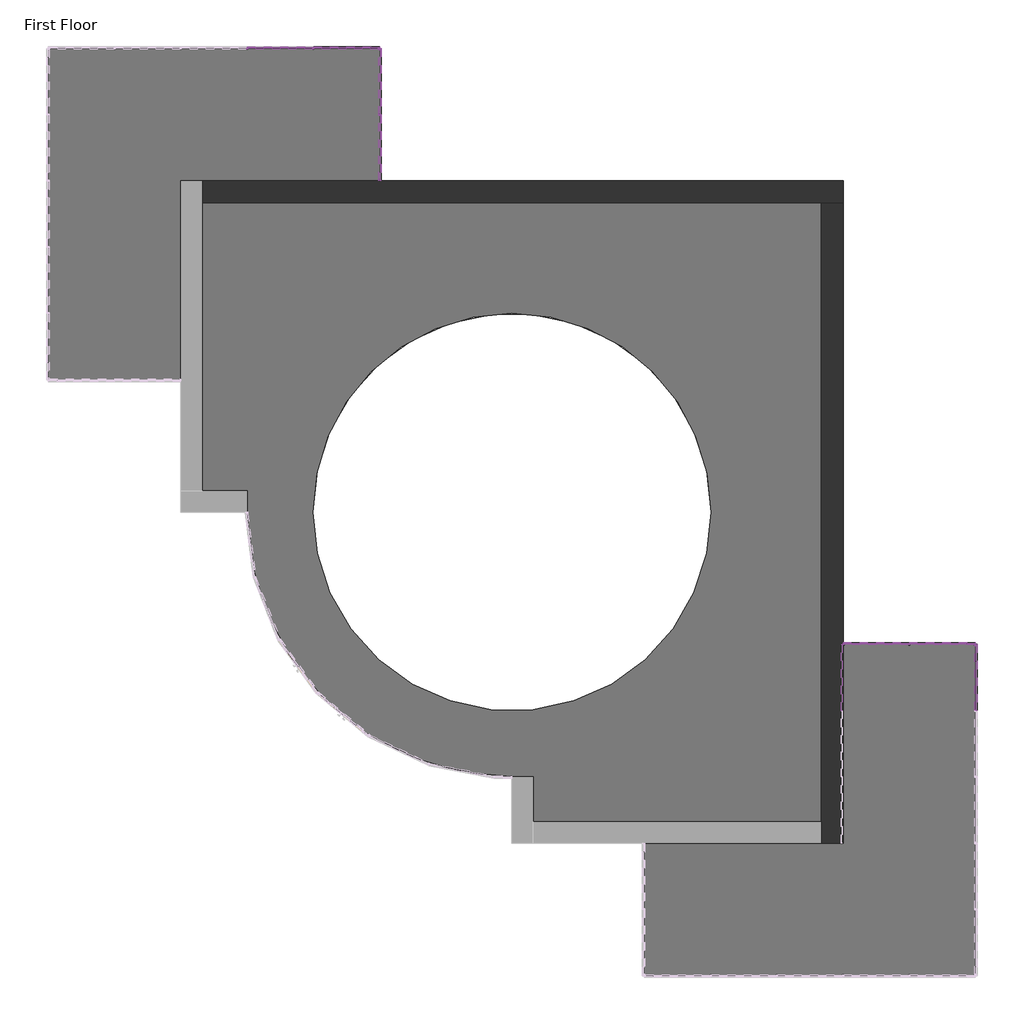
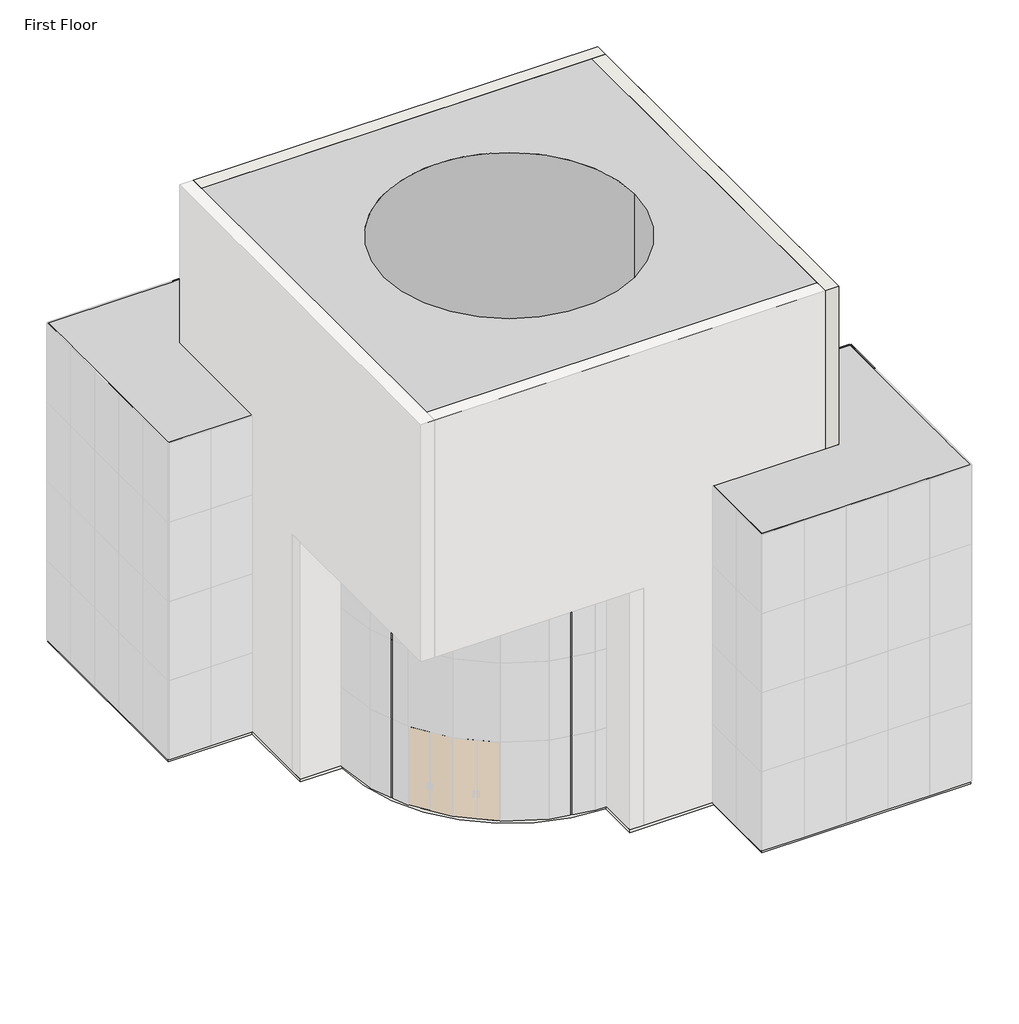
# One storey, part 4 of 4: 75 members, 31 plates, 2 proxies, 2 slabs, 2 walls.
"""IFC4 building model written with IfcOpenShell, lengths in millimetres."""

from ifc_helpers import new_model, si_unit, point, frame, frame_2d, origin, origin_with_axes, place, context, project, spatial, polyline, circle_curve, trimmed, segment, composite_curve, outline, extrude, faceted_brep, transform, mapped, element, save
from ifc_brep_helpers import plane_surface, cylinder_surface, revolved_surface, advanced_brep
from components import member_cbdb9076, member_7e523723, member_e16e0e7d, member_15743826, member_c4f80b05, member_9fd3d903, member_6604d1e0, system_panel_glazed_c0c5e10a

model = new_model("IFC4")

# Units and contexts
model_context = context("Model", 3, world=origin())
ifc_project = project(units=[si_unit("LENGTHUNIT", "METRE", prefix="MILLI")], contexts=[model_context])

# Site, building, storey
site = spatial("IfcSite", under=ifc_project)
building = spatial("IfcBuilding", under=site)
storey = spatial("IfcBuildingStorey", under=building, Name="First Floor", Elevation=0.0)

# Proxies
placement = place(None, origin())
element("IfcBuildingElementProxy", 1, Name="Central Hall : Central Hall", ObjectType="Central Hall : Central Hall", at=placement, inside=storey, context=model_context, shape_type="AdvancedBrep", body=[
    advanced_brep(
    [(3931.5112389, 11572.2454612, 0.0), (-11308.4887611, 11572.2454612, 0.0), (-11308.4887611, 11572.2454612, 18288.0), (3931.5112389, 11572.2454612, 18288.0), (-11308.4887611, 3952.2454612, 0.0), (-11308.4887611, 3952.2454612, 9144.0), (-11308.4887611, -3667.7545388, 9144.0), (-11308.4887611, -3667.7545388, 18288.0), (3931.5112389, -3667.7545388, 0.0), (3931.5112389, -3667.7545388, 18288.0), (-3688.4887611, -3667.7545388, 9144.0), (-3688.4887611, -3667.7545388, 0.0), (883.5112389, 3952.2454612, 18288.0), (-8260.4887611, 3952.2454612, 18288.0), (-3688.4887611, -2143.7545388, 0.0), (-9784.4887611, 3952.2454612, 0.0), (-8260.4887611, 3952.2454612, 0.0), (883.5112389, 3952.2454612, 0.0), (-3688.4887611, -2143.7545388, 9144.0), (-9784.4887611, 3952.2454612, 9144.0)],
    [
        (0, 1),
        (1, 2),
        (2, 3),
        (3, 0),
        (1, 4),
        (4, 5),
        (5, 6),
        (6, 7),
        (7, 2),
        (8, 9),
        (9, 7),
        (6, 10),
        (10, 11),
        (11, 8),
        (3, 9),
        (8, 0),
        (12, 13, circle_curve(frame((-3688.4887611, 3952.2454612, 18288.0), z_axis=(0.0, 0.0, -1.0), x_axis=(0.0, -1.0, 0.0)), 4572.0)),
        (13, 12, circle_curve(frame((-3688.4887611, 3952.2454612, 18288.0), z_axis=(0.0, 0.0, -1.0), x_axis=(0.0, 1.0, 0.0)), 4572.0)),
        (11, 14),
        (14, 15, circle_curve(frame((-3688.4887611, 3952.2454612, 0.0), z_axis=(0.0, 0.0, -1.0), x_axis=(-1.0, 0.0, 0.0)), 6096.0)),
        (15, 4),
        (16, 17, circle_curve(frame((-3688.4887611, 3952.2454612, 0.0), z_axis=(0.0, 0.0, 1.0), x_axis=(0.0, -1.0, 0.0)), 4572.0)),
        (17, 16, circle_curve(frame((-3688.4887611, 3952.2454612, 0.0), z_axis=(0.0, 0.0, 1.0), x_axis=(0.0, 1.0, 0.0)), 4572.0)),
        (16, 13),
        (12, 17),
        (14, 18),
        (18, 19, circle_curve(frame((-3688.4887611, 3952.2454612, 9144.0), z_axis=(0.0, 0.0, -1.0), x_axis=(-1.0, 0.0, 0.0)), 6096.0)),
        (19, 15),
        (19, 5),
        (10, 18),
    ],
    [
        plane_surface(frame((-3688.4887611, 11572.2454612, 0.0), z_axis=(0.0, 1.0, 0.0), x_axis=(-1.0, 0.0, 0.0))),
        plane_surface(frame((-11308.4887611, 3952.2454612, 0.0), z_axis=(-1.0, 0.0, 0.0), x_axis=(0.0, -1.0, 0.0))),
        plane_surface(frame((-3688.4887611, -3667.7545388, 0.0), z_axis=(0.0, -1.0, 0.0), x_axis=(1.0, 0.0, 0.0))),
        plane_surface(frame((3931.5112389, 3952.2454612, 0.0), z_axis=(1.0, 0.0, 0.0), x_axis=(0.0, 1.0, 0.0))),
        plane_surface(frame((-3688.4887611, 3952.2454612, 18288.0), z_axis=(0.0, 0.0, 1.0), x_axis=(1.0, 0.0, 0.0))),
        plane_surface(frame((-3688.4887611, 3952.2454612, 0.0), z_axis=(0.0, 0.0, -1.0), x_axis=(0.0, -1.0, 0.0))),
        revolved_surface(polyline([(-3688.4887611, -619.7545387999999, 18288.0), (-3688.4887611, -619.7545387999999, 0.0)]), (-3688.4887611, 3952.2454612, 0.0), (0.0, 0.0, 1.0)),
        revolved_surface(polyline([(-3688.4887611, 8524.2454612, 18288.0), (-3688.4887611, 8524.2454612, 0.0)]), (-3688.4887611, 3952.2454612, 0.0), (0.0, 0.0, 1.0)),
        cylinder_surface(frame((-3688.4887611, 3952.2454612, 0.0), z_axis=(0.0, 0.0, 1.0), x_axis=(-1.0, 0.0, 0.0)), 6096.0),
        plane_surface(frame((-10546.4887611, 3952.2454612, 0.0), z_axis=(0.0, -1.0, 0.0), x_axis=(-1.0, 0.0, 0.0))),
        plane_surface(frame((-3688.4887611, -2905.7545388, 0.0), z_axis=(-1.0, 0.0, 0.0), x_axis=(0.0, 1.0, 0.0))),
        plane_surface(frame((-7955.6887611, -314.9545388, 9144.0), z_axis=(0.0, 0.0, -1.0), x_axis=(-1.0, 0.0, 0.0))),
    ],
    [
        (0, [[1, 2, 3, 4]]),
        (1, [[-2, 5, 6, 7, 8, 9]]),
        (2, [[10, 11, -8, 12, 13, 14]]),
        (3, [[-4, 15, -10, 16]]),
        (4, [[-3, -9, -11, -15], [17, 18]]),
        (5, [[-1, -16, -14, 19, 20, 21, -5], [22, 23]]),
        (6, [[24, -17, 25, -22]]),
        (7, [[-24, -23, -25, -18]]),
        (8, [[26, 27, 28, -20]]),
        (9, [[-28, 29, -6, -21]]),
        (10, [[-26, -19, -13, 30]]),
        (11, [[-27, -30, -12, -7, -29]]),
    ],
),
])
element("IfcBuildingElementProxy", 2, Name="Wings : Wings", ObjectType="Wings : Wings", at=placement, inside=storey, context=model_context, shape_type="SweptSolid", body=[
    extrude(outline(polyline([(-6736.4887611, 14620.2454612), (-6736.4887611, 11572.2454612), (-11308.4887611, 11572.2454612), (-11308.4887611, 7000.2454612), (-14356.4887611, 7000.2454612), (-14356.4887611, 14620.2454612), (-6736.4887611, 14620.2454612)])), origin_with_axes(), (0.0, 0.0, 1.0), 12192.0),
    extrude(outline(polyline([(6979.5112389, 904.2454612), (6979.5112389, -6715.7545388), (-640.4887611, -6715.7545388), (-640.4887611, -3667.7545388), (3931.5112389, -3667.7545388), (3931.5112389, 904.2454612), (6979.5112389, 904.2454612)])), origin_with_axes(), (0.0, 0.0, 1.0), 12192.0),
])

# Members
member_shape = member_cbdb9076(model_context)
element("IfcMember", 3, ObjectType="Rectangular Mullion : 1\" Square", at=placement, inside=storey, context=model_context, shape_type="MappedRepresentation", body=[
    mapped(member_shape, transform((-8260.4887614, 14620.2454612, 0.0), x_axis=(-1.0, 0.0, 0.0), y_axis=(0.0, 1.0, 0.0), z_axis=(0.0, 0.0, -1.0))),
])
element("IfcMember", 4, ObjectType="Rectangular Mullion : 1\" Square", at=placement, inside=storey, context=model_context, shape_type="MappedRepresentation", body=[
    mapped(member_shape, transform((-9784.4887614, 14620.2454612, 0.0), x_axis=(-1.0, 0.0, 0.0), y_axis=(0.0, 1.0, 0.0), z_axis=(0.0, 0.0, -1.0))),
])
element("IfcMember", 5, ObjectType="Rectangular Mullion : 1\" Square", at=placement, inside=storey, context=model_context, shape_type="MappedRepresentation", body=[
    mapped(member_shape, transform((-6736.4887611, 13096.2454615, 0.0), x_axis=(0.0, 1.0, 0.0), y_axis=(1.0, 0.0, 0.0), z_axis=(0.0, 0.0, -1.0))),
])
element("IfcMember", 6, ObjectType="Rectangular Mullion : 1\" Square", at=placement, inside=storey, context=model_context, shape_type="MappedRepresentation", body=[
    mapped(member_shape, transform((5455.5112386, 904.2454612, 0.0), x_axis=(-1.0, 0.0, 0.0), y_axis=(0.0, 1.0, 0.0), z_axis=(0.0, 0.0, -1.0))),
])
element("IfcMember", 7, ObjectType="Rectangular Mullion : 1\" Square", at=placement, inside=storey, context=model_context, shape_type="MappedRepresentation", body=[
    mapped(member_shape, transform((-8260.4887614, 14620.2454612, 3048.0), x_axis=(-1.0, 0.0, 0.0), y_axis=(0.0, 1.0, 0.0), z_axis=(0.0, 0.0, -1.0))),
])
element("IfcMember", 8, ObjectType="Rectangular Mullion : 1\" Square", at=placement, inside=storey, context=model_context, shape_type="MappedRepresentation", body=[
    mapped(member_shape, transform((-8260.4887614, 14620.2454612, 6096.0), x_axis=(-1.0, 0.0, 0.0), y_axis=(0.0, 1.0, 0.0), z_axis=(0.0, 0.0, -1.0))),
])
element("IfcMember", 9, ObjectType="Rectangular Mullion : 1\" Square", at=placement, inside=storey, context=model_context, shape_type="MappedRepresentation", body=[
    mapped(member_shape, transform((-9784.4887614, 14620.2454612, 3048.0), x_axis=(-1.0, 0.0, 0.0), y_axis=(0.0, 1.0, 0.0), z_axis=(0.0, 0.0, -1.0))),
])
element("IfcMember", 10, ObjectType="Rectangular Mullion : 1\" Square", at=placement, inside=storey, context=model_context, shape_type="MappedRepresentation", body=[
    mapped(member_shape, transform((-9784.4887614, 14620.2454612, 6096.0), x_axis=(-1.0, 0.0, 0.0), y_axis=(0.0, 1.0, 0.0), z_axis=(0.0, 0.0, -1.0))),
])
element("IfcMember", 11, ObjectType="Rectangular Mullion : 1\" Square", at=placement, inside=storey, context=model_context, shape_type="MappedRepresentation", body=[
    mapped(member_shape, transform((-6736.4887611, 13096.2454615, 3048.0), x_axis=(0.0, 1.0, 0.0), y_axis=(1.0, 0.0, 0.0), z_axis=(0.0, 0.0, -1.0))),
])
element("IfcMember", 12, ObjectType="Rectangular Mullion : 1\" Square", at=placement, inside=storey, context=model_context, shape_type="MappedRepresentation", body=[
    mapped(member_shape, transform((-6736.4887611, 13096.2454615, 6096.0), x_axis=(0.0, 1.0, 0.0), y_axis=(1.0, 0.0, 0.0), z_axis=(0.0, 0.0, -1.0))),
])
element("IfcMember", 13, ObjectType="Rectangular Mullion : 1\" Square", at=placement, inside=storey, context=model_context, shape_type="MappedRepresentation", body=[
    mapped(member_shape, transform((5455.5112386, 904.2454612, 3048.0), x_axis=(-1.0, 0.0, 0.0), y_axis=(0.0, 1.0, 0.0), z_axis=(0.0, 0.0, -1.0))),
])
element("IfcMember", 14, ObjectType="Rectangular Mullion : 1\" Square", at=placement, inside=storey, context=model_context, shape_type="MappedRepresentation", body=[
    mapped(member_shape, transform((5455.5112386, 904.2454612, 6096.0), x_axis=(-1.0, 0.0, 0.0), y_axis=(0.0, 1.0, 0.0), z_axis=(0.0, 0.0, -1.0))),
])
element("IfcMember", 15, ObjectType="Rectangular Mullion : 1\" Square", at=placement, inside=storey, context=model_context, shape_type="MappedRepresentation", body=[
    mapped(member_shape, transform((-8260.4887614, 14620.2454612, 9144.0), x_axis=(-1.0, 0.0, 0.0), y_axis=(0.0, 1.0, 0.0), z_axis=(0.0, 0.0, -1.0))),
])
element("IfcMember", 16, ObjectType="Rectangular Mullion : 1\" Square", at=placement, inside=storey, context=model_context, shape_type="MappedRepresentation", body=[
    mapped(member_shape, transform((-9784.4887614, 14620.2454612, 9144.0), x_axis=(-1.0, 0.0, 0.0), y_axis=(0.0, 1.0, 0.0), z_axis=(0.0, 0.0, -1.0))),
])
element("IfcMember", 17, ObjectType="Rectangular Mullion : 1\" Square", at=placement, inside=storey, context=model_context, shape_type="MappedRepresentation", body=[
    mapped(member_shape, transform((-6736.4887611, 13096.2454615, 9144.0), x_axis=(0.0, 1.0, 0.0), y_axis=(1.0, 0.0, 0.0), z_axis=(0.0, 0.0, -1.0))),
])
element("IfcMember", 18, ObjectType="Rectangular Mullion : 1\" Square", at=placement, inside=storey, context=model_context, shape_type="MappedRepresentation", body=[
    mapped(member_shape, transform((5455.5112386, 904.2454612, 9144.0), x_axis=(-1.0, 0.0, 0.0), y_axis=(0.0, 1.0, 0.0), z_axis=(0.0, 0.0, -1.0))),
])
member_2_shape = member_7e523723(model_context)
element("IfcMember", 19, ObjectType="Rectangular Mullion : 1\" Square", at=placement, inside=storey, context=model_context, shape_type="MappedRepresentation", body=[
    mapped(member_2_shape, transform((6979.5112389, 904.2454612, 0.0), x_axis=(0.0, 1.0, 0.0), y_axis=(1.0, 0.0, 0.0), z_axis=(0.0, 0.0, -1.0))),
])
element("IfcMember", 20, ObjectType="Rectangular Mullion : 1\" Square", at=placement, inside=storey, context=model_context, shape_type="MappedRepresentation", body=[
    mapped(member_2_shape, transform((-6736.4887611, 14620.2454612, 0.0), x_axis=(0.0, 1.0, 0.0), y_axis=(1.0, 0.0, 0.0), z_axis=(0.0, 0.0, -1.0))),
])
element("IfcMember", 21, ObjectType="Rectangular Mullion : 1\" Square", at=placement, inside=storey, context=model_context, shape_type="MappedRepresentation", body=[
    mapped(member_2_shape, transform((3931.5112389, 904.2454612, 0.0), x_axis=(-1.0, 0.0, 0.0), y_axis=(0.0, 1.0, 0.0), z_axis=(0.0, 0.0, -1.0))),
])
element("IfcMember", 22, ObjectType="Rectangular Mullion : 1\" Square", at=placement, inside=storey, context=model_context, shape_type="MappedRepresentation", body=[
    mapped(member_2_shape, transform((-6736.4887611, 14620.2454612, 12192.0), x_axis=(1.0, 0.0, 0.0), y_axis=(0.0, 1.0, 0.0), z_axis=(0.0, 0.0, 1.0))),
])
element("IfcMember", 23, ObjectType="Rectangular Mullion : 1\" Square", at=placement, inside=storey, context=model_context, shape_type="MappedRepresentation", body=[
    mapped(member_2_shape, transform((-6736.4887611, 11572.2454612, 12192.0), x_axis=(0.0, -1.0, 0.0), y_axis=(1.0, 0.0, 0.0), z_axis=(0.0, 0.0, 1.0))),
])
element("IfcMember", 24, ObjectType="Rectangular Mullion : 1\" Square", at=placement, inside=storey, context=model_context, shape_type="MappedRepresentation", body=[
    mapped(member_2_shape, transform((6979.5112389, 904.2454612, 12192.0), x_axis=(1.0, 0.0, 0.0), y_axis=(0.0, 1.0, 0.0), z_axis=(0.0, 0.0, 1.0))),
])
element("IfcMember", 25, ObjectType="Rectangular Mullion : 1\" Square", at=placement, inside=storey, context=model_context, shape_type="MappedRepresentation", body=[
    mapped(member_2_shape, transform((-6736.4887611, 14620.2454612, 3048.0), x_axis=(1.0, 0.0, 0.0), y_axis=(0.0, 1.0, 0.0), z_axis=(0.0, 0.0, 1.0))),
])
element("IfcMember", 26, ObjectType="Rectangular Mullion : 1\" Square", at=placement, inside=storey, context=model_context, shape_type="MappedRepresentation", body=[
    mapped(member_2_shape, transform((-6736.4887611, 11572.2454612, 3048.0), x_axis=(0.0, -1.0, 0.0), y_axis=(1.0, 0.0, 0.0), z_axis=(0.0, 0.0, 1.0))),
])
element("IfcMember", 27, ObjectType="Rectangular Mullion : 1\" Square", at=placement, inside=storey, context=model_context, shape_type="MappedRepresentation", body=[
    mapped(member_2_shape, transform((6979.5112389, 904.2454612, 3048.0), x_axis=(1.0, 0.0, 0.0), y_axis=(0.0, 1.0, 0.0), z_axis=(0.0, 0.0, 1.0))),
])
element("IfcMember", 28, ObjectType="Rectangular Mullion : 1\" Square", at=placement, inside=storey, context=model_context, shape_type="MappedRepresentation", body=[
    mapped(member_2_shape, transform((-6736.4887611, 14620.2454612, 6096.0), x_axis=(1.0, 0.0, 0.0), y_axis=(0.0, 1.0, 0.0), z_axis=(0.0, 0.0, 1.0))),
])
element("IfcMember", 29, ObjectType="Rectangular Mullion : 1\" Square", at=placement, inside=storey, context=model_context, shape_type="MappedRepresentation", body=[
    mapped(member_2_shape, transform((-6736.4887611, 14620.2454612, 9144.0), x_axis=(1.0, 0.0, 0.0), y_axis=(0.0, 1.0, 0.0), z_axis=(0.0, 0.0, 1.0))),
])
element("IfcMember", 30, ObjectType="Rectangular Mullion : 1\" Square", at=placement, inside=storey, context=model_context, shape_type="MappedRepresentation", body=[
    mapped(member_2_shape, transform((-6736.4887611, 11572.2454612, 6096.0), x_axis=(0.0, -1.0, 0.0), y_axis=(1.0, 0.0, 0.0), z_axis=(0.0, 0.0, 1.0))),
])
element("IfcMember", 31, ObjectType="Rectangular Mullion : 1\" Square", at=placement, inside=storey, context=model_context, shape_type="MappedRepresentation", body=[
    mapped(member_2_shape, transform((-6736.4887611, 11572.2454612, 9144.0), x_axis=(0.0, -1.0, 0.0), y_axis=(1.0, 0.0, 0.0), z_axis=(0.0, 0.0, 1.0))),
])
element("IfcMember", 32, ObjectType="Rectangular Mullion : 1\" Square", at=placement, inside=storey, context=model_context, shape_type="MappedRepresentation", body=[
    mapped(member_2_shape, transform((6979.5112389, 904.2454612, 6096.0), x_axis=(1.0, 0.0, 0.0), y_axis=(0.0, 1.0, 0.0), z_axis=(0.0, 0.0, 1.0))),
])
element("IfcMember", 33, ObjectType="Rectangular Mullion : 1\" Square", at=placement, inside=storey, context=model_context, shape_type="MappedRepresentation", body=[
    mapped(member_2_shape, transform((6979.5112389, 904.2454612, 9144.0), x_axis=(1.0, 0.0, 0.0), y_axis=(0.0, 1.0, 0.0), z_axis=(0.0, 0.0, 1.0))),
])
element("IfcMember", 34, ObjectType="Rectangular Mullion : 1\" Square", at=placement, inside=storey, context=model_context, shape_type="MappedRepresentation", body=[
    mapped(member_2_shape, transform((6979.5112389, 904.2454612, 3048.0), x_axis=(0.0, 1.0, 0.0), y_axis=(1.0, 0.0, 0.0), z_axis=(0.0, 0.0, -1.0))),
])
element("IfcMember", 35, ObjectType="Rectangular Mullion : 1\" Square", at=placement, inside=storey, context=model_context, shape_type="MappedRepresentation", body=[
    mapped(member_2_shape, transform((6979.5112389, 904.2454612, 6096.0), x_axis=(0.0, 1.0, 0.0), y_axis=(1.0, 0.0, 0.0), z_axis=(0.0, 0.0, -1.0))),
])
element("IfcMember", 36, ObjectType="Rectangular Mullion : 1\" Square", at=placement, inside=storey, context=model_context, shape_type="MappedRepresentation", body=[
    mapped(member_2_shape, transform((-6736.4887611, 14620.2454612, 3048.0), x_axis=(0.0, 1.0, 0.0), y_axis=(1.0, 0.0, 0.0), z_axis=(0.0, 0.0, -1.0))),
])
element("IfcMember", 37, ObjectType="Rectangular Mullion : 1\" Square", at=placement, inside=storey, context=model_context, shape_type="MappedRepresentation", body=[
    mapped(member_2_shape, transform((-6736.4887611, 14620.2454612, 6096.0), x_axis=(0.0, 1.0, 0.0), y_axis=(1.0, 0.0, 0.0), z_axis=(0.0, 0.0, -1.0))),
])
element("IfcMember", 38, ObjectType="Rectangular Mullion : 1\" Square", at=placement, inside=storey, context=model_context, shape_type="MappedRepresentation", body=[
    mapped(member_2_shape, transform((3931.5112389, 904.2454612, 3048.0), x_axis=(-1.0, 0.0, 0.0), y_axis=(0.0, 1.0, 0.0), z_axis=(0.0, 0.0, -1.0))),
])
element("IfcMember", 39, ObjectType="Rectangular Mullion : 1\" Square", at=placement, inside=storey, context=model_context, shape_type="MappedRepresentation", body=[
    mapped(member_2_shape, transform((3931.5112389, 904.2454612, 6096.0), x_axis=(-1.0, 0.0, 0.0), y_axis=(0.0, 1.0, 0.0), z_axis=(0.0, 0.0, -1.0))),
])
element("IfcMember", 40, ObjectType="Rectangular Mullion : 1\" Square", at=placement, inside=storey, context=model_context, shape_type="MappedRepresentation", body=[
    mapped(member_2_shape, transform((6979.5112389, 904.2454612, 9144.0), x_axis=(0.0, 1.0, 0.0), y_axis=(1.0, 0.0, 0.0), z_axis=(0.0, 0.0, -1.0))),
])
element("IfcMember", 41, ObjectType="Rectangular Mullion : 1\" Square", at=placement, inside=storey, context=model_context, shape_type="MappedRepresentation", body=[
    mapped(member_2_shape, transform((-6736.4887611, 14620.2454612, 9144.0), x_axis=(0.0, 1.0, 0.0), y_axis=(1.0, 0.0, 0.0), z_axis=(0.0, 0.0, -1.0))),
])
element("IfcMember", 42, ObjectType="Rectangular Mullion : 1\" Square", at=placement, inside=storey, context=model_context, shape_type="MappedRepresentation", body=[
    mapped(member_2_shape, transform((3931.5112389, 904.2454612, 9144.0), x_axis=(-1.0, 0.0, 0.0), y_axis=(0.0, 1.0, 0.0), z_axis=(0.0, 0.0, -1.0))),
])
member_3_shape = member_e16e0e7d(model_context)
element("IfcMember", 43, ObjectType="Rectangular Mullion : 1\" Square", at=placement, inside=storey, context=model_context, shape_type="MappedRepresentation", body=[
    mapped(member_3_shape, transform((6979.5112389, 878.8454612, 12192.0), x_axis=(0.0, 0.0, 1.0), y_axis=(1.0, 0.0, 0.0), z_axis=(0.0, 1.0, 0.0))),
])
element("IfcMember", 44, ObjectType="Rectangular Mullion : 1\" Square", at=placement, inside=storey, context=model_context, shape_type="MappedRepresentation", body=[
    mapped(member_3_shape, transform((-8247.7887614, 14620.2454612, 12192.0), x_axis=(0.0, 0.0, 1.0), y_axis=(0.0, 1.0, 0.0), z_axis=(-1.0, 0.0, 0.0))),
])
element("IfcMember", 45, ObjectType="Rectangular Mullion : 1\" Square", at=placement, inside=storey, context=model_context, shape_type="MappedRepresentation", body=[
    mapped(member_3_shape, transform((-6736.4887611, 14594.8454612, 12192.0), x_axis=(0.0, 0.0, 1.0), y_axis=(1.0, 0.0, 0.0), z_axis=(0.0, 1.0, 0.0))),
])
element("IfcMember", 46, ObjectType="Rectangular Mullion : 1\" Square", at=placement, inside=storey, context=model_context, shape_type="MappedRepresentation", body=[
    mapped(member_3_shape, transform((-6736.4887611, 13083.5454615, 12192.0), x_axis=(0.0, 0.0, 1.0), y_axis=(1.0, 0.0, 0.0), z_axis=(0.0, 1.0, 0.0))),
])
element("IfcMember", 47, ObjectType="Rectangular Mullion : 1\" Square", at=placement, inside=storey, context=model_context, shape_type="MappedRepresentation", body=[
    mapped(member_3_shape, transform((3956.9112389, 904.2454612, 12192.0), x_axis=(0.0, 0.0, 1.0), y_axis=(0.0, 1.0, 0.0), z_axis=(-1.0, 0.0, 0.0))),
])
element("IfcMember", 48, ObjectType="Rectangular Mullion : 1\" Square", at=placement, inside=storey, context=model_context, shape_type="MappedRepresentation", body=[
    mapped(member_3_shape, transform((5468.2112386, 904.2454612, 12192.0), x_axis=(0.0, 0.0, 1.0), y_axis=(0.0, 1.0, 0.0), z_axis=(-1.0, 0.0, 0.0))),
])
member_4_shape = member_15743826(model_context)
element("IfcMember", 49, ObjectType="Rectangular Mullion : 1\" Square", at=placement, inside=storey, context=model_context, shape_type="MappedRepresentation", body=[
    mapped(member_4_shape, transform((-6761.8887611, 14620.2454612, 0.0), x_axis=(0.0, 0.0, -1.0), y_axis=(0.0, 1.0, 0.0), z_axis=(1.0, 0.0, 0.0))),
])
element("IfcMember", 50, ObjectType="Rectangular Mullion : 1\" Square", at=placement, inside=storey, context=model_context, shape_type="MappedRepresentation", body=[
    mapped(member_4_shape, transform((-6736.4887611, 11597.6454612, 0.0), x_axis=(0.0, 0.0, -1.0), y_axis=(1.0, 0.0, 0.0), z_axis=(0.0, -1.0, 0.0))),
])
element("IfcMember", 51, ObjectType="Rectangular Mullion : 1\" Square", at=placement, inside=storey, context=model_context, shape_type="MappedRepresentation", body=[
    mapped(member_4_shape, transform((-6736.4887611, 13108.9454615, 0.0), x_axis=(0.0, 0.0, -1.0), y_axis=(1.0, 0.0, 0.0), z_axis=(0.0, -1.0, 0.0))),
])
element("IfcMember", 52, ObjectType="Rectangular Mullion : 1\" Square", at=placement, inside=storey, context=model_context, shape_type="MappedRepresentation", body=[
    mapped(member_4_shape, transform((6954.1112389, 904.2454612, 0.0), x_axis=(0.0, 0.0, -1.0), y_axis=(0.0, 1.0, 0.0), z_axis=(1.0, 0.0, 0.0))),
])
element("IfcMember", 53, ObjectType="Rectangular Mullion : 1\" Square", at=placement, inside=storey, context=model_context, shape_type="MappedRepresentation", body=[
    mapped(member_4_shape, transform((5442.8112386, 904.2454612, 0.0), x_axis=(0.0, 0.0, -1.0), y_axis=(0.0, 1.0, 0.0), z_axis=(1.0, 0.0, 0.0))),
])
member_5_shape = member_c4f80b05(model_context)
element("IfcMember", 54, ObjectType="Rectangular Mullion : 1\" Square", at=placement, inside=storey, context=model_context, shape_type="MappedRepresentation", body=[
    mapped(member_5_shape, transform((6979.5112389, 878.8454612, 3048.0), x_axis=(0.0, 0.0, 1.0), y_axis=(1.0, 0.0, 0.0), z_axis=(0.0, 1.0, 0.0))),
])
element("IfcMember", 55, ObjectType="Rectangular Mullion : 1\" Square", at=placement, inside=storey, context=model_context, shape_type="MappedRepresentation", body=[
    mapped(member_5_shape, transform((6979.5112389, 878.8454612, 6096.0), x_axis=(0.0, 0.0, 1.0), y_axis=(1.0, 0.0, 0.0), z_axis=(0.0, 1.0, 0.0))),
])
element("IfcMember", 56, ObjectType="Rectangular Mullion : 1\" Square", at=placement, inside=storey, context=model_context, shape_type="MappedRepresentation", body=[
    mapped(member_5_shape, transform((6979.5112389, 878.8454612, 9144.0), x_axis=(0.0, 0.0, 1.0), y_axis=(1.0, 0.0, 0.0), z_axis=(0.0, 1.0, 0.0))),
])
element("IfcMember", 57, ObjectType="Rectangular Mullion : 1\" Square", at=placement, inside=storey, context=model_context, shape_type="MappedRepresentation", body=[
    mapped(member_5_shape, transform((-8247.7887614, 14620.2454612, 3048.0), x_axis=(0.0, 0.0, 1.0), y_axis=(0.0, 1.0, 0.0), z_axis=(-1.0, 0.0, 0.0))),
])
element("IfcMember", 58, ObjectType="Rectangular Mullion : 1\" Square", at=placement, inside=storey, context=model_context, shape_type="MappedRepresentation", body=[
    mapped(member_5_shape, transform((-8247.7887614, 14620.2454612, 6096.0), x_axis=(0.0, 0.0, 1.0), y_axis=(0.0, 1.0, 0.0), z_axis=(-1.0, 0.0, 0.0))),
])
element("IfcMember", 59, ObjectType="Rectangular Mullion : 1\" Square", at=placement, inside=storey, context=model_context, shape_type="MappedRepresentation", body=[
    mapped(member_5_shape, transform((-8247.7887614, 14620.2454612, 9144.0), x_axis=(0.0, 0.0, 1.0), y_axis=(0.0, 1.0, 0.0), z_axis=(-1.0, 0.0, 0.0))),
])
element("IfcMember", 60, ObjectType="Rectangular Mullion : 1\" Square", at=placement, inside=storey, context=model_context, shape_type="MappedRepresentation", body=[
    mapped(member_5_shape, transform((-6736.4887611, 13083.5454615, 3048.0), x_axis=(0.0, 0.0, 1.0), y_axis=(1.0, 0.0, 0.0), z_axis=(0.0, 1.0, 0.0))),
])
element("IfcMember", 61, ObjectType="Rectangular Mullion : 1\" Square", at=placement, inside=storey, context=model_context, shape_type="MappedRepresentation", body=[
    mapped(member_5_shape, transform((-6736.4887611, 14594.8454612, 3048.0), x_axis=(0.0, 0.0, 1.0), y_axis=(1.0, 0.0, 0.0), z_axis=(0.0, 1.0, 0.0))),
])
element("IfcMember", 62, ObjectType="Rectangular Mullion : 1\" Square", at=placement, inside=storey, context=model_context, shape_type="MappedRepresentation", body=[
    mapped(member_5_shape, transform((-6736.4887611, 13083.5454615, 6096.0), x_axis=(0.0, 0.0, 1.0), y_axis=(1.0, 0.0, 0.0), z_axis=(0.0, 1.0, 0.0))),
])
element("IfcMember", 63, ObjectType="Rectangular Mullion : 1\" Square", at=placement, inside=storey, context=model_context, shape_type="MappedRepresentation", body=[
    mapped(member_5_shape, transform((-6736.4887611, 14594.8454612, 6096.0), x_axis=(0.0, 0.0, 1.0), y_axis=(1.0, 0.0, 0.0), z_axis=(0.0, 1.0, 0.0))),
])
element("IfcMember", 64, ObjectType="Rectangular Mullion : 1\" Square", at=placement, inside=storey, context=model_context, shape_type="MappedRepresentation", body=[
    mapped(member_5_shape, transform((-6736.4887611, 13083.5454615, 9144.0), x_axis=(0.0, 0.0, 1.0), y_axis=(1.0, 0.0, 0.0), z_axis=(0.0, 1.0, 0.0))),
])
element("IfcMember", 65, ObjectType="Rectangular Mullion : 1\" Square", at=placement, inside=storey, context=model_context, shape_type="MappedRepresentation", body=[
    mapped(member_5_shape, transform((-6736.4887611, 14594.8454612, 9144.0), x_axis=(0.0, 0.0, 1.0), y_axis=(1.0, 0.0, 0.0), z_axis=(0.0, 1.0, 0.0))),
])
element("IfcMember", 66, ObjectType="Rectangular Mullion : 1\" Square", at=placement, inside=storey, context=model_context, shape_type="MappedRepresentation", body=[
    mapped(member_5_shape, transform((5468.2112386, 904.2454612, 3048.0), x_axis=(0.0, 0.0, 1.0), y_axis=(0.0, 1.0, 0.0), z_axis=(-1.0, 0.0, 0.0))),
])
element("IfcMember", 67, ObjectType="Rectangular Mullion : 1\" Square", at=placement, inside=storey, context=model_context, shape_type="MappedRepresentation", body=[
    mapped(member_5_shape, transform((3956.9112389, 904.2454612, 3048.0), x_axis=(0.0, 0.0, 1.0), y_axis=(0.0, 1.0, 0.0), z_axis=(-1.0, 0.0, 0.0))),
])
element("IfcMember", 68, ObjectType="Rectangular Mullion : 1\" Square", at=placement, inside=storey, context=model_context, shape_type="MappedRepresentation", body=[
    mapped(member_5_shape, transform((5468.2112386, 904.2454612, 6096.0), x_axis=(0.0, 0.0, 1.0), y_axis=(0.0, 1.0, 0.0), z_axis=(-1.0, 0.0, 0.0))),
])
element("IfcMember", 69, ObjectType="Rectangular Mullion : 1\" Square", at=placement, inside=storey, context=model_context, shape_type="MappedRepresentation", body=[
    mapped(member_5_shape, transform((3956.9112389, 904.2454612, 6096.0), x_axis=(0.0, 0.0, 1.0), y_axis=(0.0, 1.0, 0.0), z_axis=(-1.0, 0.0, 0.0))),
])
element("IfcMember", 70, ObjectType="Rectangular Mullion : 1\" Square", at=placement, inside=storey, context=model_context, shape_type="MappedRepresentation", body=[
    mapped(member_5_shape, transform((5468.2112386, 904.2454612, 9144.0), x_axis=(0.0, 0.0, 1.0), y_axis=(0.0, 1.0, 0.0), z_axis=(-1.0, 0.0, 0.0))),
])
element("IfcMember", 71, ObjectType="Rectangular Mullion : 1\" Square", at=placement, inside=storey, context=model_context, shape_type="MappedRepresentation", body=[
    mapped(member_5_shape, transform((3956.9112389, 904.2454612, 9144.0), x_axis=(0.0, 0.0, 1.0), y_axis=(0.0, 1.0, 0.0), z_axis=(-1.0, 0.0, 0.0))),
])
member_6_shape = member_9fd3d903(model_context)
element("IfcMember", 72, ObjectType="Rectangular Mullion : 1\" Square", at=placement, inside=storey, context=model_context, shape_type="MappedRepresentation", body=[
    mapped(member_6_shape, transform((-9771.7887614, 14620.2454612, 3048.0), x_axis=(0.0, 0.0, 1.0), y_axis=(0.0, 1.0, 0.0), z_axis=(-1.0, 0.0, 0.0))),
])
element("IfcMember", 73, ObjectType="Rectangular Mullion : 1\" Square", at=placement, inside=storey, context=model_context, shape_type="MappedRepresentation", body=[
    mapped(member_6_shape, transform((-9771.7887614, 14620.2454612, 6096.0), x_axis=(0.0, 0.0, 1.0), y_axis=(0.0, 1.0, 0.0), z_axis=(-1.0, 0.0, 0.0))),
])
element("IfcMember", 74, ObjectType="Rectangular Mullion : 1\" Square", at=placement, inside=storey, context=model_context, shape_type="MappedRepresentation", body=[
    mapped(member_6_shape, transform((-9771.7887614, 14620.2454612, 9144.0), x_axis=(0.0, 0.0, 1.0), y_axis=(0.0, 1.0, 0.0), z_axis=(-1.0, 0.0, 0.0))),
])
member_7_shape = member_6604d1e0(model_context)
element("IfcMember", 75, ObjectType="Rectangular Mullion : 1\" Square", at=placement, inside=storey, context=model_context, shape_type="MappedRepresentation", body=[
    mapped(member_7_shape, transform((-8273.1887614, 14620.2454612, 0.0), x_axis=(0.0, 0.0, -1.0), y_axis=(0.0, 1.0, 0.0), z_axis=(1.0, 0.0, 0.0))),
])
element("IfcMember", 76, ObjectType="Rectangular Mullion : 1\" Square", at=placement, inside=storey, context=model_context, shape_type="MappedRepresentation", body=[
    mapped(member_7_shape, transform((-9797.1887614, 14620.2454612, 0.0), x_axis=(0.0, 0.0, -1.0), y_axis=(0.0, 1.0, 0.0), z_axis=(1.0, 0.0, 0.0))),
])
element("IfcMember", 77, ObjectType="Rectangular Mullion : 1\" Square", at=placement, inside=storey, context=model_context, shape_type="MappedRepresentation", body=[
    mapped(member_7_shape, transform((-9771.7887614, 14620.2454612, 12192.0), x_axis=(0.0, 0.0, 1.0), y_axis=(0.0, 1.0, 0.0), z_axis=(-1.0, 0.0, 0.0))),
])

# Plates
system_panel_glazed_shape = system_panel_glazed_c0c5e10a(model_context)
element("IfcPlate", 78, ObjectType="System Panel : Glazed", at=placement, inside=storey, context=model_context, shape_type="MappedRepresentation", body=[
    mapped(system_panel_glazed_shape, transform((3931.5112389, 142.245461, 0.0), x_axis=(0.0, -1.0, 0.0), y_axis=(1.0, 0.0, 0.0), z_axis=(0.0, 0.0, 1.0))),
])
element("IfcPlate", 79, ObjectType="System Panel : Glazed", at=placement, inside=storey, context=model_context, shape_type="MappedRepresentation", body=[
    mapped(system_panel_glazed_shape, transform((3931.5112389, 142.245461, 3048.0), x_axis=(0.0, -1.0, 0.0), y_axis=(1.0, 0.0, 0.0), z_axis=(0.0, 0.0, 1.0))),
])
element("IfcPlate", 80, ObjectType="System Panel : Glazed", at=placement, inside=storey, context=model_context, shape_type="MappedRepresentation", body=[
    mapped(system_panel_glazed_shape, transform((3931.5112389, 142.245461, 6096.0), x_axis=(0.0, -1.0, 0.0), y_axis=(1.0, 0.0, 0.0), z_axis=(0.0, 0.0, 1.0))),
])
element("IfcPlate", 81, ObjectType="System Panel : Glazed", at=placement, inside=storey, context=model_context, shape_type="MappedRepresentation", body=[
    mapped(system_panel_glazed_shape, transform((3931.5112389, 142.245461, 9144.0), x_axis=(0.0, -1.0, 0.0), y_axis=(1.0, 0.0, 0.0), z_axis=(0.0, 0.0, 1.0))),
])
element("IfcPlate", 82, ObjectType="System Panel : Glazed", at=placement, inside=storey, context=model_context, shape_type="MappedRepresentation", body=[
    mapped(system_panel_glazed_shape, transform((6217.5112388, 904.2454612, 0.0), x_axis=(-1.0, 0.0, 0.0), y_axis=(0.0, -1.0, 0.0), z_axis=(0.0, 0.0, 1.0))),
])
element("IfcPlate", 83, ObjectType="System Panel : Glazed", at=placement, inside=storey, context=model_context, shape_type="MappedRepresentation", body=[
    mapped(system_panel_glazed_shape, transform((4693.5112388, 904.2454612, 0.0), x_axis=(-1.0, 0.0, 0.0), y_axis=(0.0, -1.0, 0.0), z_axis=(0.0, 0.0, 1.0))),
])
element("IfcPlate", 84, ObjectType="System Panel : Glazed", at=placement, inside=storey, context=model_context, shape_type="MappedRepresentation", body=[
    mapped(system_panel_glazed_shape, transform((6217.5112388, 904.2454612, 3048.0), x_axis=(-1.0, 0.0, 0.0), y_axis=(0.0, -1.0, 0.0), z_axis=(0.0, 0.0, 1.0))),
])
element("IfcPlate", 85, ObjectType="System Panel : Glazed", at=placement, inside=storey, context=model_context, shape_type="MappedRepresentation", body=[
    mapped(system_panel_glazed_shape, transform((4693.5112388, 904.2454612, 3048.0), x_axis=(-1.0, 0.0, 0.0), y_axis=(0.0, -1.0, 0.0), z_axis=(0.0, 0.0, 1.0))),
])
element("IfcPlate", 86, ObjectType="System Panel : Glazed", at=placement, inside=storey, context=model_context, shape_type="MappedRepresentation", body=[
    mapped(system_panel_glazed_shape, transform((6217.5112388, 904.2454612, 6096.0), x_axis=(-1.0, 0.0, 0.0), y_axis=(0.0, -1.0, 0.0), z_axis=(0.0, 0.0, 1.0))),
])
element("IfcPlate", 87, ObjectType="System Panel : Glazed", at=placement, inside=storey, context=model_context, shape_type="MappedRepresentation", body=[
    mapped(system_panel_glazed_shape, transform((4693.5112388, 904.2454612, 6096.0), x_axis=(-1.0, 0.0, 0.0), y_axis=(0.0, -1.0, 0.0), z_axis=(0.0, 0.0, 1.0))),
])
element("IfcPlate", 88, ObjectType="System Panel : Glazed", at=placement, inside=storey, context=model_context, shape_type="MappedRepresentation", body=[
    mapped(system_panel_glazed_shape, transform((6217.5112388, 904.2454612, 9144.0), x_axis=(-1.0, 0.0, 0.0), y_axis=(0.0, -1.0, 0.0), z_axis=(0.0, 0.0, 1.0))),
])
element("IfcPlate", 89, ObjectType="System Panel : Glazed", at=placement, inside=storey, context=model_context, shape_type="MappedRepresentation", body=[
    mapped(system_panel_glazed_shape, transform((4693.5112388, 904.2454612, 9144.0), x_axis=(-1.0, 0.0, 0.0), y_axis=(0.0, -1.0, 0.0), z_axis=(0.0, 0.0, 1.0))),
])
element("IfcPlate", 90, ObjectType="System Panel : Glazed", at=placement, inside=storey, context=model_context, shape_type="MappedRepresentation", body=[
    mapped(system_panel_glazed_shape, transform((6979.5112389, 142.2454613, 0.0), x_axis=(0.0, 1.0, 0.0), y_axis=(-1.0, 0.0, 0.0), z_axis=(0.0, 0.0, 1.0))),
])
element("IfcPlate", 91, ObjectType="System Panel : Glazed", at=placement, inside=storey, context=model_context, shape_type="MappedRepresentation", body=[
    mapped(system_panel_glazed_shape, transform((6979.5112389, 142.2454613, 3048.0), x_axis=(0.0, 1.0, 0.0), y_axis=(-1.0, 0.0, 0.0), z_axis=(0.0, 0.0, 1.0))),
])
element("IfcPlate", 92, ObjectType="System Panel : Glazed", at=placement, inside=storey, context=model_context, shape_type="MappedRepresentation", body=[
    mapped(system_panel_glazed_shape, transform((6979.5112389, 142.2454613, 6096.0), x_axis=(0.0, 1.0, 0.0), y_axis=(-1.0, 0.0, 0.0), z_axis=(0.0, 0.0, 1.0))),
])
element("IfcPlate", 93, ObjectType="System Panel : Glazed", at=placement, inside=storey, context=model_context, shape_type="MappedRepresentation", body=[
    mapped(system_panel_glazed_shape, transform((6979.5112389, 142.2454613, 9144.0), x_axis=(0.0, 1.0, 0.0), y_axis=(-1.0, 0.0, 0.0), z_axis=(0.0, 0.0, 1.0))),
])
element("IfcPlate", 94, ObjectType="System Panel : Glazed", at=placement, inside=storey, context=model_context, shape_type="MappedRepresentation", body=[
    mapped(system_panel_glazed_shape, transform((-7498.4887612, 14620.2454612, 0.0), x_axis=(-1.0, 0.0, 0.0), y_axis=(0.0, -1.0, 0.0), z_axis=(0.0, 0.0, 1.0))),
])
element("IfcPlate", 95, ObjectType="System Panel : Glazed", at=placement, inside=storey, context=model_context, shape_type="MappedRepresentation", body=[
    mapped(system_panel_glazed_shape, transform((-7498.4887612, 14620.2454612, 3048.0), x_axis=(-1.0, 0.0, 0.0), y_axis=(0.0, -1.0, 0.0), z_axis=(0.0, 0.0, 1.0))),
])
element("IfcPlate", 96, ObjectType="System Panel : Glazed", at=placement, inside=storey, context=model_context, shape_type="MappedRepresentation", body=[
    mapped(system_panel_glazed_shape, transform((-9022.4887614, 14620.2454612, 3048.0), x_axis=(-1.0, 0.0, 0.0), y_axis=(0.0, -1.0, 0.0), z_axis=(0.0, 0.0, 1.0))),
])
element("IfcPlate", 97, ObjectType="System Panel : Glazed", at=placement, inside=storey, context=model_context, shape_type="MappedRepresentation", body=[
    mapped(system_panel_glazed_shape, transform((-7498.4887612, 14620.2454612, 6096.0), x_axis=(-1.0, 0.0, 0.0), y_axis=(0.0, -1.0, 0.0), z_axis=(0.0, 0.0, 1.0))),
])
element("IfcPlate", 98, ObjectType="System Panel : Glazed", at=placement, inside=storey, context=model_context, shape_type="MappedRepresentation", body=[
    mapped(system_panel_glazed_shape, transform((-9022.4887614, 14620.2454612, 6096.0), x_axis=(-1.0, 0.0, 0.0), y_axis=(0.0, -1.0, 0.0), z_axis=(0.0, 0.0, 1.0))),
])
element("IfcPlate", 99, ObjectType="System Panel : Glazed", at=placement, inside=storey, context=model_context, shape_type="MappedRepresentation", body=[
    mapped(system_panel_glazed_shape, transform((-7498.4887612, 14620.2454612, 9144.0), x_axis=(-1.0, 0.0, 0.0), y_axis=(0.0, -1.0, 0.0), z_axis=(0.0, 0.0, 1.0))),
])
element("IfcPlate", 100, ObjectType="System Panel : Glazed", at=placement, inside=storey, context=model_context, shape_type="MappedRepresentation", body=[
    mapped(system_panel_glazed_shape, transform((-9022.4887614, 14620.2454612, 9144.0), x_axis=(-1.0, 0.0, 0.0), y_axis=(0.0, -1.0, 0.0), z_axis=(0.0, 0.0, 1.0))),
])
element("IfcPlate", 101, ObjectType="System Panel : Glazed", at=placement, inside=storey, context=model_context, shape_type="MappedRepresentation", body=[
    mapped(system_panel_glazed_shape, transform((-6736.4887611, 12334.2454613, 0.0), x_axis=(0.0, 1.0, 0.0), y_axis=(-1.0, 0.0, 0.0), z_axis=(0.0, 0.0, 1.0))),
])
element("IfcPlate", 102, ObjectType="System Panel : Glazed", at=placement, inside=storey, context=model_context, shape_type="MappedRepresentation", body=[
    mapped(system_panel_glazed_shape, transform((-6736.4887611, 13858.2454613, 0.0), x_axis=(0.0, 1.0, 0.0), y_axis=(-1.0, 0.0, 0.0), z_axis=(0.0, 0.0, 1.0))),
])
element("IfcPlate", 103, ObjectType="System Panel : Glazed", at=placement, inside=storey, context=model_context, shape_type="MappedRepresentation", body=[
    mapped(system_panel_glazed_shape, transform((-6736.4887611, 12334.2454613, 3048.0), x_axis=(0.0, 1.0, 0.0), y_axis=(-1.0, 0.0, 0.0), z_axis=(0.0, 0.0, 1.0))),
])
element("IfcPlate", 104, ObjectType="System Panel : Glazed", at=placement, inside=storey, context=model_context, shape_type="MappedRepresentation", body=[
    mapped(system_panel_glazed_shape, transform((-6736.4887611, 13858.2454613, 3048.0), x_axis=(0.0, 1.0, 0.0), y_axis=(-1.0, 0.0, 0.0), z_axis=(0.0, 0.0, 1.0))),
])
element("IfcPlate", 105, ObjectType="System Panel : Glazed", at=placement, inside=storey, context=model_context, shape_type="MappedRepresentation", body=[
    mapped(system_panel_glazed_shape, transform((-6736.4887611, 12334.2454613, 6096.0), x_axis=(0.0, 1.0, 0.0), y_axis=(-1.0, 0.0, 0.0), z_axis=(0.0, 0.0, 1.0))),
])
element("IfcPlate", 106, ObjectType="System Panel : Glazed", at=placement, inside=storey, context=model_context, shape_type="MappedRepresentation", body=[
    mapped(system_panel_glazed_shape, transform((-6736.4887611, 13858.2454613, 6096.0), x_axis=(0.0, 1.0, 0.0), y_axis=(-1.0, 0.0, 0.0), z_axis=(0.0, 0.0, 1.0))),
])
element("IfcPlate", 107, ObjectType="System Panel : Glazed", at=placement, inside=storey, context=model_context, shape_type="MappedRepresentation", body=[
    mapped(system_panel_glazed_shape, transform((-6736.4887611, 12334.2454613, 9144.0), x_axis=(0.0, 1.0, 0.0), y_axis=(-1.0, 0.0, 0.0), z_axis=(0.0, 0.0, 1.0))),
])
element("IfcPlate", 108, ObjectType="System Panel : Glazed", at=placement, inside=storey, context=model_context, shape_type="MappedRepresentation", body=[
    mapped(system_panel_glazed_shape, transform((-6736.4887611, 13858.2454613, 9144.0), x_axis=(0.0, 1.0, 0.0), y_axis=(-1.0, 0.0, 0.0), z_axis=(0.0, 0.0, 1.0))),
])

# Slabs
element("IfcSlab", 109, ObjectType="LW Concrete on Metal Deck", at=placement, inside=storey, context=model_context, shape_type="SweptSolid", body=[
    extrude(outline(composite_curve([segment(polyline([(3931.5112389, 11572.2454612), (3931.5112389, -3667.7545388), (-3688.4887611, -3667.7545388), (-3688.4887611, -2143.7545388)]), True, "CONTINUOUS"), segment(trimmed(circle_curve(frame_2d((-3688.4887611, 3952.2454612)), 6096.0), [point((-3688.4887611, -2143.7545388))], [point((-9784.4887611, 3952.2454612))], False, "CARTESIAN"), True, "CONTINUOUS"), segment(polyline([(-9784.4887611, 3952.2454612), (-11308.4887611, 3952.2454612), (-11308.4887611, 11572.2454612), (3931.5112389, 11572.2454612)]), True, "CONTINUOUS")], self_intersect=False), holes=[composite_curve([segment(trimmed(circle_curve(frame_2d((-3688.4887611, 3952.2454612)), 4572.0), [point((883.5112389, 3952.2454612))], [point((-8260.4887611, 3952.2454612))], True, "CARTESIAN"), True, "CONTINUOUS"), segment(trimmed(circle_curve(frame_2d((-3688.4887611, 3952.2454612)), 4572.0), [point((-8260.4887611, 3952.2454612))], [point((883.5112389, 3952.2454612))], True, "CARTESIAN"), True, "CONTINUOUS")], self_intersect=False)]), frame((0.0, 0.0, -104.775), z_axis=(0.0, 0.0, 1.0), x_axis=(1.0, 0.0, 0.0)), (0.0, 0.0, 1.0), 104.775),
])
element("IfcSlab", 110, ObjectType="LW Concrete on Metal Deck", at=placement, inside=storey, context=model_context, shape_type="SweptSolid", body=[
    extrude(outline(polyline([(-6736.4887611, 14620.2454612), (-6736.4887611, 11572.2454612), (-11308.4887611, 11572.2454612), (-11308.4887611, 7000.2454612), (-14356.4887611, 7000.2454612), (-14356.4887611, 14620.2454612), (-6736.4887611, 14620.2454612)])), frame((0.0, 0.0, -104.775), z_axis=(0.0, 0.0, 1.0), x_axis=(1.0, 0.0, 0.0)), (0.0, 0.0, 1.0), 104.775),
    extrude(outline(polyline([(6979.5112389, 904.2454612), (6979.5112389, -6715.7545388), (-640.4887611, -6715.7545388), (-640.4887611, -3667.7545388), (3931.5112389, -3667.7545388), (3931.5112389, 904.2454612), (6979.5112389, 904.2454612)])), frame((0.0, 0.0, -104.775), z_axis=(0.0, 0.0, 1.0), x_axis=(1.0, 0.0, 0.0)), (0.0, 0.0, 1.0), 104.775),
])

# Walls
element("IfcWall", 111, ObjectType="Exterior - Brick on CMU", at=placement, inside=storey, context=model_context, shape_type="Brep", body=[
    faceted_brep([(3931.5112389, 11572.2454612, 0.0), (-10813.1887611, 11572.2454612, 0.0), (-10813.1887611, 11572.2454612, 18288.0), (3931.5112389, 11572.2454612, 18288.0), (3931.5112389, 11076.9454612, 0.0), (3931.5112389, 11076.9454612, 18288.0), (3436.2112389, 11076.9454612, 18288.0), (-10813.1887611, 11076.9454612, 18288.0), (-10813.1887611, 11076.9454612, 0.0), (3436.2112389, 11076.9454612, 0.0)], [[[0, 1, 2, 3]], [[4, 5, 6, 7, 8, 9]], [[1, 0, 4, 9, 8]], [[3, 2, 7, 6, 5]], [[2, 1, 8, 7]], [[0, 3, 5, 4]]]),
])
element("IfcWall", 112, ObjectType="Exterior - Brick on CMU", at=placement, inside=storey, context=model_context, shape_type="Brep", body=[
    faceted_brep([(3931.5112389, -3667.7545388, 0.0), (3931.5112389, 11076.9454612, 0.0), (3931.5112389, 11076.9454612, 18288.0), (3931.5112389, -3667.7545388, 18288.0), (3436.2112389, -3667.7545388, 0.0), (3436.2112389, -3667.7545388, 18288.0), (3436.2112389, -3172.4545388, 18288.0), (3436.2112389, 11076.9454612, 18288.0), (3436.2112389, 11076.9454612, 0.0), (3436.2112389, -3172.4545388, 0.0)], [[[0, 1, 2, 3]], [[4, 5, 6, 7, 8, 9]], [[1, 0, 4, 9, 8]], [[3, 2, 7, 6, 5]], [[2, 1, 8, 7]], [[0, 3, 5, 4]]]),
])

save(model, "model.ifc")
